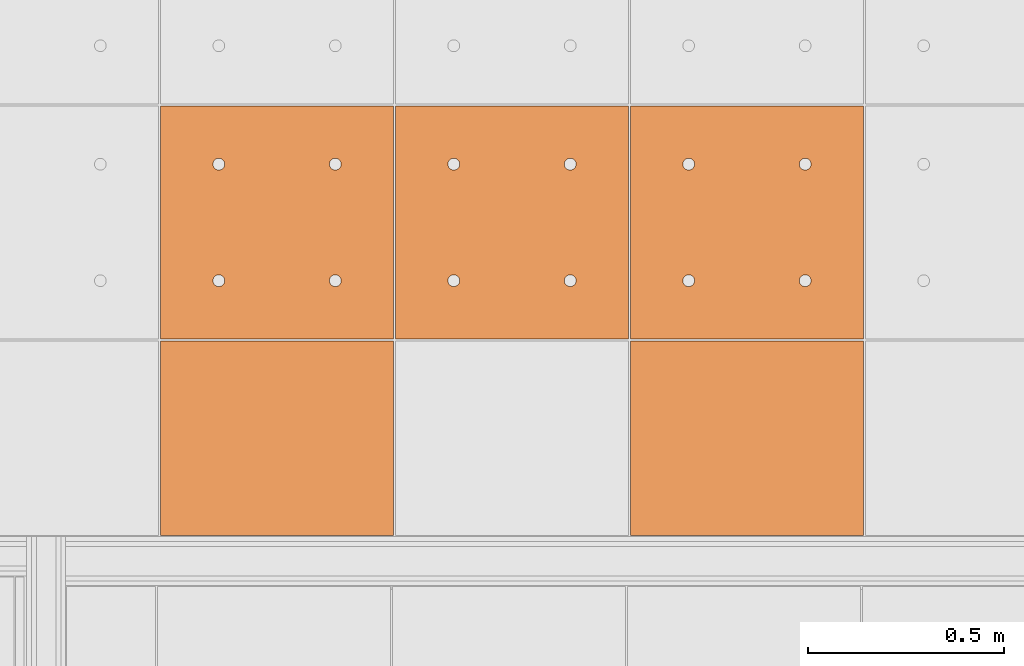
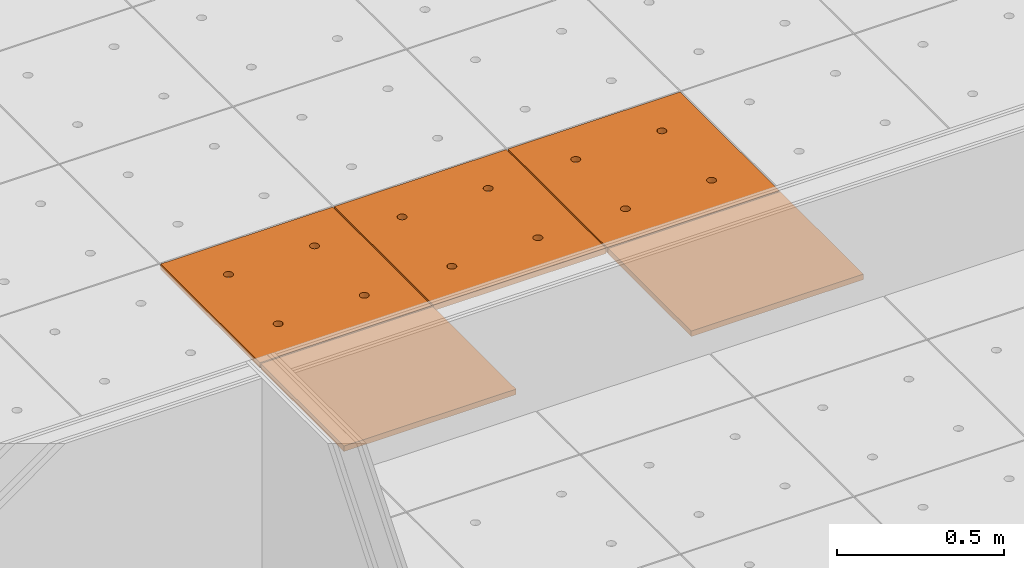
# One storey, part 278 of 338: 5 proxies, 1 element without a shape of its own.
"""IFC2X3 building model written with IfcOpenShell, lengths in millimetres."""

from ifc_helpers import new_model, entity, si_unit, converted_unit, derived_unit, money_unit, direction, frame, origin_with_axes, place, context, subcontext, project, spatial, faceted_brep, source, transform, mapped, material, type_object, type_shapes, element, aggregate, save


model = new_model("IFC2X3")

# Units and contexts
model_context = context("Model", 3, precision=0.01, world=origin_with_axes(), true_north=direction((0.0, 1.0)))
plan_context = context("Plan", 3, precision=0.01, world=origin_with_axes(), true_north=direction((0.0, 1.0)))
body_context = subcontext(model_context, "Body", "Model", "MODEL_VIEW")
ifc_project = project(units=[si_unit("LENGTHUNIT", "METRE", prefix="MILLI"), si_unit("AREAUNIT", "SQUARE_METRE"), si_unit("VOLUMEUNIT", "CUBIC_METRE"), converted_unit("PLANEANGLEUNIT", "DEGREE", entity("IfcPlaneAngleMeasure", 0.0174532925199), si_unit("PLANEANGLEUNIT", "RADIAN"), dimensions=[0, 0, 0, 0, 0, 0, 0]), money_unit("EUR"), converted_unit("TIMEUNIT", "Year", entity("IfcTimeMeasure", 31556926.0), si_unit("TIMEUNIT", "SECOND"), dimensions=[0, 0, 1, 0, 0, 0, 0]), si_unit("MASSUNIT", "GRAM", prefix="KILO"), si_unit("THERMODYNAMICTEMPERATUREUNIT", "DEGREE_CELSIUS"), si_unit("LUMINOUSINTENSITYUNIT", "LUMEN"), si_unit("ENERGYUNIT", "JOULE", prefix="MEGA"), derived_unit("THERMALCONDUCTANCEUNIT", [(si_unit("POWERUNIT", "WATT"), 1), (si_unit("LENGTHUNIT", "METRE"), -1), (si_unit("THERMODYNAMICTEMPERATUREUNIT", "KELVIN"), -1)]), derived_unit("SPECIFICHEATCAPACITYUNIT", [(si_unit("ENERGYUNIT", "JOULE"), 1), (si_unit("MASSUNIT", "GRAM", prefix="KILO"), -1), (si_unit("THERMODYNAMICTEMPERATUREUNIT", "KELVIN"), -1)]), derived_unit("MASSDENSITYUNIT", [(si_unit("MASSUNIT", "GRAM", prefix="KILO"), 1), (si_unit("VOLUMEUNIT", "CUBIC_METRE"), -1)])], contexts=[model_context, plan_context])

# Site, building, storey
site_placement = place(None, origin_with_axes())
site = spatial("IfcSite", under=ifc_project, at=site_placement, Name="Fortuinstraat Woensdrecht", CompositionType="ELEMENT")
building_placement = place(site_placement, origin_with_axes())
building = spatial("IfcBuilding", under=site, at=building_placement, Name="IKC Fortuna", CompositionType="ELEMENT")
storey_placement = place(building_placement, origin_with_axes())
storey = spatial("IfcBuildingStorey", under=building, at=storey_placement, Name="00 begane grond", CompositionType="ELEMENT", Elevation=0.0)

# Covering, proxies
covering_type = type_object("IfcCoveringType", Name="Curtain Wall Type", PredefinedType="CEILING")
covering_placement = place(storey_placement, frame((15059.4416165, 34009.703821, 3210.0), z_axis=(0.0, 0.0, 1.0), x_axis=(1.0, 0.0, 0.0)))
covering = element("IfcCovering", 1, at=covering_placement, inside=storey, type_object=covering_type, Name="45_Plafondafwerking_P01", PredefinedType="CEILING")
ifc_material = material(Name="Gipsplaat")
building_element_proxy_type_1 = type_object("IfcBuildingElementProxyType", Name="Distinct Panel 600 x 600 x 20", PredefinedType="NOTDEFINED")
shared_shape_1 = source(origin_with_axes(), body_context, "Body", "Brep", [
    faceted_brep([(2.49999999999, 2.49999999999, -10.0), (300.0, 2.49999999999, -10.0), (300.0, 2.49999999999, 10.0), (2.49999999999, 2.49999999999, 10.0), (2.49999999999, 300.0, -10.0), (2.49999999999, 597.5, -10.0), (300.0, 597.5, -10.0), (597.5, 597.5, -10.0), (597.5, 300.0, -10.0), (597.5, 2.49999999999, -10.0), (166.25, 450.06232995, -10.0), (165.79423259, 452.64711538, -10.0), (164.896546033, 455.11348892, -10.0), (163.58421608, 457.38651108, -10.0), (161.897117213, 459.39711721, -10.0), (159.886511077, 461.08421608, -10.0), (157.613488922, 462.39654603, -10.0), (155.147115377, 463.29423259, -10.0), (152.562329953, 463.75, -10.0), (149.937670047, 463.75, -10.0), (147.352884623, 463.29423259, -10.0), (144.886511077, 462.39654603, -10.0), (142.613488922, 461.08421608, -10.0), (140.602882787, 459.39711721, -10.0), (138.91578392, 457.38651108, -10.0), (137.603453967, 455.11348892, -10.0), (136.705767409, 452.64711538, -10.0), (136.25, 450.06232995, -10.0), (136.25, 448.75, -10.0), (136.25, 447.43767005, -10.0), (136.705767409, 444.85288462, -10.0), (137.603453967, 442.38651108, -10.0), (138.91578392, 440.11348892, -10.0), (140.602882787, 438.10288279, -10.0), (142.613488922, 436.41578392, -10.0), (144.886511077, 435.10345397, -10.0), (147.352884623, 434.20576741, -10.0), (149.937670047, 433.75, -10.0), (152.562329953, 433.75, -10.0), (155.147115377, 434.20576741, -10.0), (157.613488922, 435.10345397, -10.0), (159.886511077, 436.41578392, -10.0), (161.897117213, 438.10288279, -10.0), (163.58421608, 440.11348892, -10.0), (164.896546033, 442.38651108, -10.0), (165.79423259, 444.85288462, -10.0), (166.25, 447.43767005, -10.0), (463.75, 450.06232995, -10.0), (463.29423259, 452.64711538, -10.0), (462.396546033, 455.11348892, -10.0), (461.08421608, 457.38651108, -10.0), (459.397117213, 459.39711721, -10.0), (457.386511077, 461.08421608, -10.0), (455.113488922, 462.39654603, -10.0), (452.647115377, 463.29423259, -10.0), (450.062329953, 463.75, -10.0), (447.437670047, 463.75, -10.0), (444.852884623, 463.29423259, -10.0), (442.386511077, 462.39654603, -10.0), (440.113488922, 461.08421608, -10.0), (438.102882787, 459.39711721, -10.0), (436.41578392, 457.38651108, -10.0), (435.103453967, 455.11348892, -10.0), (434.205767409, 452.64711538, -10.0), (433.75, 450.06232995, -10.0), (433.75, 448.75, -10.0), (433.75, 447.43767005, -10.0), (434.205767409, 444.85288462, -10.0), (435.103453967, 442.38651108, -10.0), (436.41578392, 440.11348892, -10.0), (438.102882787, 438.10288279, -10.0), (440.113488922, 436.41578392, -10.0), (442.386511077, 435.10345397, -10.0), (444.852884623, 434.20576741, -10.0), (447.437670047, 433.75, -10.0), (450.062329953, 433.75, -10.0), (452.647115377, 434.20576741, -10.0), (455.113488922, 435.10345397, -10.0), (457.386511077, 436.41578392, -10.0), (459.397117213, 438.10288279, -10.0), (461.08421608, 440.11348892, -10.0), (462.396546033, 442.38651108, -10.0), (463.29423259, 444.85288462, -10.0), (463.75, 447.43767005, -10.0), (463.75, 152.56232995, -10.0), (463.29423259, 155.14711538, -10.0), (462.396546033, 157.61348892, -10.0), (461.08421608, 159.88651108, -10.0), (459.397117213, 161.89711721, -10.0), (457.386511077, 163.58421608, -10.0), (455.113488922, 164.89654603, -10.0), (452.647115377, 165.79423259, -10.0), (450.062329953, 166.25, -10.0), (447.437670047, 166.25, -10.0), (444.852884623, 165.79423259, -10.0), (442.386511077, 164.89654603, -10.0), (440.113488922, 163.58421608, -10.0), (438.102882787, 161.89711721, -10.0), (436.41578392, 159.88651108, -10.0), (435.103453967, 157.61348892, -10.0), (434.205767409, 155.14711538, -10.0), (433.75, 152.56232995, -10.0), (433.75, 151.25, -10.0), (433.75, 149.93767005, -10.0), (434.205767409, 147.35288462, -10.0), (435.103453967, 144.88651108, -10.0), (436.41578392, 142.61348892, -10.0), (438.102882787, 140.60288279, -10.0), (440.113488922, 138.91578392, -10.0), (442.386511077, 137.60345397, -10.0), (444.852884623, 136.70576741, -10.0), (447.437670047, 136.25, -10.0), (450.062329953, 136.25, -10.0), (452.647115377, 136.70576741, -10.0), (455.113488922, 137.60345397, -10.0), (457.386511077, 138.91578392, -10.0), (459.397117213, 140.60288279, -10.0), (461.08421608, 142.61348892, -10.0), (462.396546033, 144.88651108, -10.0), (463.29423259, 147.35288462, -10.0), (463.75, 149.93767005, -10.0), (166.25, 152.56232995, -10.0), (165.79423259, 155.14711538, -10.0), (164.896546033, 157.61348892, -10.0), (163.58421608, 159.88651108, -10.0), (161.897117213, 161.89711721, -10.0), (159.886511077, 163.58421608, -10.0), (157.613488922, 164.89654603, -10.0), (155.147115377, 165.79423259, -10.0), (152.562329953, 166.25, -10.0), (149.937670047, 166.25, -10.0), (147.352884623, 165.79423259, -10.0), (144.886511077, 164.89654603, -10.0), (142.613488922, 163.58421608, -10.0), (140.602882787, 161.89711721, -10.0), (138.91578392, 159.88651108, -10.0), (137.603453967, 157.61348892, -10.0), (136.705767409, 155.14711538, -10.0), (136.25, 152.56232995, -10.0), (136.25, 151.25, -10.0), (136.25, 149.93767005, -10.0), (136.705767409, 147.35288462, -10.0), (137.603453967, 144.88651108, -10.0), (138.91578392, 142.61348892, -10.0), (140.602882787, 140.60288279, -10.0), (142.613488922, 138.91578392, -10.0), (144.886511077, 137.60345397, -10.0), (147.352884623, 136.70576741, -10.0), (149.937670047, 136.25, -10.0), (152.562329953, 136.25, -10.0), (155.147115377, 136.70576741, -10.0), (157.613488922, 137.60345397, -10.0), (159.886511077, 138.91578392, -10.0), (161.897117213, 140.60288279, -10.0), (163.58421608, 142.61348892, -10.0), (164.896546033, 144.88651108, -10.0), (165.79423259, 147.35288462, -10.0), (166.25, 149.93767005, -10.0), (597.5, 2.49999999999, 10.0), (597.5, 300.0, 10.0), (597.5, 597.5, 10.0), (300.0, 597.5, 10.0), (2.49999999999, 597.5, 10.0), (2.49999999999, 300.0, 10.0), (166.25, 450.06232995, 10.0), (166.25, 447.43767005, 10.0), (165.79423259, 444.85288462, 10.0), (164.896546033, 442.38651108, 10.0), (163.58421608, 440.11348892, 10.0), (161.897117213, 438.10288279, 10.0), (159.886511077, 436.41578392, 10.0), (157.613488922, 435.10345397, 10.0), (155.147115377, 434.20576741, 10.0), (152.562329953, 433.75, 10.0), (149.937670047, 433.75, 10.0), (147.352884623, 434.20576741, 10.0), (144.886511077, 435.10345397, 10.0), (142.613488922, 436.41578392, 10.0), (140.602882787, 438.10288279, 10.0), (138.91578392, 440.11348892, 10.0), (137.603453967, 442.38651108, 10.0), (136.705767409, 444.85288462, 10.0), (136.25, 447.43767005, 10.0), (136.25, 448.75, 10.0), (136.25, 450.06232995, 10.0), (136.705767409, 452.64711538, 10.0), (137.603453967, 455.11348892, 10.0), (138.91578392, 457.38651108, 10.0), (140.602882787, 459.39711721, 10.0), (142.613488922, 461.08421608, 10.0), (144.886511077, 462.39654603, 10.0), (147.352884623, 463.29423259, 10.0), (149.937670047, 463.75, 10.0), (152.562329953, 463.75, 10.0), (155.147115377, 463.29423259, 10.0), (157.613488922, 462.39654603, 10.0), (159.886511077, 461.08421608, 10.0), (161.897117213, 459.39711721, 10.0), (163.58421608, 457.38651108, 10.0), (164.896546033, 455.11348892, 10.0), (165.79423259, 452.64711538, 10.0), (463.75, 450.06232995, 10.0), (463.75, 447.43767005, 10.0), (463.29423259, 444.85288462, 10.0), (462.396546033, 442.38651108, 10.0), (461.08421608, 440.11348892, 10.0), (459.397117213, 438.10288279, 10.0), (457.386511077, 436.41578392, 10.0), (455.113488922, 435.10345397, 10.0), (452.647115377, 434.20576741, 10.0), (450.062329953, 433.75, 10.0), (447.437670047, 433.75, 10.0), (444.852884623, 434.20576741, 10.0), (442.386511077, 435.10345397, 10.0), (440.113488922, 436.41578392, 10.0), (438.102882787, 438.10288279, 10.0), (436.41578392, 440.11348892, 10.0), (435.103453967, 442.38651108, 10.0), (434.205767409, 444.85288462, 10.0), (433.75, 447.43767005, 10.0), (433.75, 448.75, 10.0), (433.75, 450.06232995, 10.0), (434.205767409, 452.64711538, 10.0), (435.103453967, 455.11348892, 10.0), (436.41578392, 457.38651108, 10.0), (438.102882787, 459.39711721, 10.0), (440.113488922, 461.08421608, 10.0), (442.386511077, 462.39654603, 10.0), (444.852884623, 463.29423259, 10.0), (447.437670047, 463.75, 10.0), (450.062329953, 463.75, 10.0), (452.647115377, 463.29423259, 10.0), (455.113488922, 462.39654603, 10.0), (457.386511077, 461.08421608, 10.0), (459.397117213, 459.39711721, 10.0), (461.08421608, 457.38651108, 10.0), (462.396546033, 455.11348892, 10.0), (463.29423259, 452.64711538, 10.0), (463.75, 152.56232995, 10.0), (463.75, 149.93767005, 10.0), (463.29423259, 147.35288462, 10.0), (462.396546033, 144.88651108, 10.0), (461.08421608, 142.61348892, 10.0), (459.397117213, 140.60288279, 10.0), (457.386511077, 138.91578392, 10.0), (455.113488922, 137.60345397, 10.0), (452.647115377, 136.70576741, 10.0), (450.062329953, 136.25, 10.0), (447.437670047, 136.25, 10.0), (444.852884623, 136.70576741, 10.0), (442.386511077, 137.60345397, 10.0), (440.113488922, 138.91578392, 10.0), (438.102882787, 140.60288279, 10.0), (436.41578392, 142.61348892, 10.0), (435.103453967, 144.88651108, 10.0), (434.205767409, 147.35288462, 10.0), (433.75, 149.93767005, 10.0), (433.75, 151.25, 10.0), (433.75, 152.56232995, 10.0), (434.205767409, 155.14711538, 10.0), (435.103453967, 157.61348892, 10.0), (436.41578392, 159.88651108, 10.0), (438.102882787, 161.89711721, 10.0), (440.113488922, 163.58421608, 10.0), (442.386511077, 164.89654603, 10.0), (444.852884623, 165.79423259, 10.0), (447.437670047, 166.25, 10.0), (450.062329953, 166.25, 10.0), (452.647115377, 165.79423259, 10.0), (455.113488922, 164.89654603, 10.0), (457.386511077, 163.58421608, 10.0), (459.397117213, 161.89711721, 10.0), (461.08421608, 159.88651108, 10.0), (462.396546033, 157.61348892, 10.0), (463.29423259, 155.14711538, 10.0), (166.25, 152.56232995, 10.0), (166.25, 149.93767005, 10.0), (165.79423259, 147.35288462, 10.0), (164.896546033, 144.88651108, 10.0), (163.58421608, 142.61348892, 10.0), (161.897117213, 140.60288279, 10.0), (159.886511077, 138.91578392, 10.0), (157.613488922, 137.60345397, 10.0), (155.147115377, 136.70576741, 10.0), (152.562329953, 136.25, 10.0), (149.937670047, 136.25, 10.0), (147.352884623, 136.70576741, 10.0), (144.886511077, 137.60345397, 10.0), (142.613488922, 138.91578392, 10.0), (140.602882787, 140.60288279, 10.0), (138.91578392, 142.61348892, 10.0), (137.603453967, 144.88651108, 10.0), (136.705767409, 147.35288462, 10.0), (136.25, 149.93767005, 10.0), (136.25, 151.25, 10.0), (136.25, 152.56232995, 10.0), (136.705767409, 155.14711538, 10.0), (137.603453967, 157.61348892, 10.0), (138.91578392, 159.88651108, 10.0), (140.602882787, 161.89711721, 10.0), (142.613488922, 163.58421608, 10.0), (144.886511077, 164.89654603, 10.0), (147.352884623, 165.79423259, 10.0), (149.937670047, 166.25, 10.0), (152.562329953, 166.25, 10.0), (155.147115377, 165.79423259, 10.0), (157.613488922, 164.89654603, 10.0), (159.886511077, 163.58421608, 10.0), (161.897117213, 161.89711721, 10.0), (163.58421608, 159.88651108, 10.0), (164.896546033, 157.61348892, 10.0), (165.79423259, 155.14711538, 10.0)], [[[0, 1, 2, 3]], [[0, 4, 5, 6, 7, 8, 9, 1], [10, 11, 12, 13, 14, 15, 16, 17, 18, 19, 20, 21, 22, 23, 24, 25, 26, 27, 28, 29, 30, 31, 32, 33, 34, 35, 36, 37, 38, 39, 40, 41, 42, 43, 44, 45, 46], [47, 48, 49, 50, 51, 52, 53, 54, 55, 56, 57, 58, 59, 60, 61, 62, 63, 64, 65, 66, 67, 68, 69, 70, 71, 72, 73, 74, 75, 76, 77, 78, 79, 80, 81, 82, 83], [84, 85, 86, 87, 88, 89, 90, 91, 92, 93, 94, 95, 96, 97, 98, 99, 100, 101, 102, 103, 104, 105, 106, 107, 108, 109, 110, 111, 112, 113, 114, 115, 116, 117, 118, 119, 120], [121, 122, 123, 124, 125, 126, 127, 128, 129, 130, 131, 132, 133, 134, 135, 136, 137, 138, 139, 140, 141, 142, 143, 144, 145, 146, 147, 148, 149, 150, 151, 152, 153, 154, 155, 156, 157]], [[1, 9, 158, 2]], [[3, 2, 158, 159, 160, 161, 162, 163], [164, 165, 166, 167, 168, 169, 170, 171, 172, 173, 174, 175, 176, 177, 178, 179, 180, 181, 182, 183, 184, 185, 186, 187, 188, 189, 190, 191, 192, 193, 194, 195, 196, 197, 198, 199, 200], [201, 202, 203, 204, 205, 206, 207, 208, 209, 210, 211, 212, 213, 214, 215, 216, 217, 218, 219, 220, 221, 222, 223, 224, 225, 226, 227, 228, 229, 230, 231, 232, 233, 234, 235, 236, 237], [238, 239, 240, 241, 242, 243, 244, 245, 246, 247, 248, 249, 250, 251, 252, 253, 254, 255, 256, 257, 258, 259, 260, 261, 262, 263, 264, 265, 266, 267, 268, 269, 270, 271, 272, 273, 274], [275, 276, 277, 278, 279, 280, 281, 282, 283, 284, 285, 286, 287, 288, 289, 290, 291, 292, 293, 294, 295, 296, 297, 298, 299, 300, 301, 302, 303, 304, 305, 306, 307, 308, 309, 310, 311]], [[4, 0, 3, 163]], [[5, 4, 163, 162]], [[6, 5, 162, 161]], [[7, 6, 161, 160]], [[8, 7, 160, 159]], [[9, 8, 159, 158]], [[11, 10, 164, 200]], [[12, 11, 200, 199]], [[13, 12, 199, 198]], [[14, 13, 198, 197]], [[15, 14, 197, 196]], [[16, 15, 196, 195]], [[17, 16, 195, 194]], [[18, 17, 194, 193]], [[19, 18, 193, 192]], [[20, 19, 192, 191]], [[21, 20, 191, 190]], [[22, 21, 190, 189]], [[23, 22, 189, 188]], [[24, 23, 188, 187]], [[25, 24, 187, 186]], [[26, 25, 186, 185]], [[27, 26, 185, 184]], [[28, 27, 184, 183]], [[29, 28, 183, 182]], [[30, 29, 182, 181]], [[31, 30, 181, 180]], [[32, 31, 180, 179]], [[33, 32, 179, 178]], [[34, 33, 178, 177]], [[35, 34, 177, 176]], [[36, 35, 176, 175]], [[37, 36, 175, 174]], [[38, 37, 174, 173]], [[39, 38, 173, 172]], [[40, 39, 172, 171]], [[41, 40, 171, 170]], [[42, 41, 170, 169]], [[43, 42, 169, 168]], [[44, 43, 168, 167]], [[45, 44, 167, 166]], [[46, 45, 166, 165]], [[10, 46, 165, 164]], [[48, 47, 201, 237]], [[49, 48, 237, 236]], [[50, 49, 236, 235]], [[51, 50, 235, 234]], [[52, 51, 234, 233]], [[53, 52, 233, 232]], [[54, 53, 232, 231]], [[55, 54, 231, 230]], [[56, 55, 230, 229]], [[57, 56, 229, 228]], [[58, 57, 228, 227]], [[59, 58, 227, 226]], [[60, 59, 226, 225]], [[61, 60, 225, 224]], [[62, 61, 224, 223]], [[63, 62, 223, 222]], [[64, 63, 222, 221]], [[65, 64, 221, 220]], [[66, 65, 220, 219]], [[67, 66, 219, 218]], [[68, 67, 218, 217]], [[69, 68, 217, 216]], [[70, 69, 216, 215]], [[71, 70, 215, 214]], [[72, 71, 214, 213]], [[73, 72, 213, 212]], [[74, 73, 212, 211]], [[75, 74, 211, 210]], [[76, 75, 210, 209]], [[77, 76, 209, 208]], [[78, 77, 208, 207]], [[79, 78, 207, 206]], [[80, 79, 206, 205]], [[81, 80, 205, 204]], [[82, 81, 204, 203]], [[83, 82, 203, 202]], [[47, 83, 202, 201]], [[85, 84, 238, 274]], [[86, 85, 274, 273]], [[87, 86, 273, 272]], [[88, 87, 272, 271]], [[89, 88, 271, 270]], [[90, 89, 270, 269]], [[91, 90, 269, 268]], [[92, 91, 268, 267]], [[93, 92, 267, 266]], [[94, 93, 266, 265]], [[95, 94, 265, 264]], [[96, 95, 264, 263]], [[97, 96, 263, 262]], [[98, 97, 262, 261]], [[99, 98, 261, 260]], [[100, 99, 260, 259]], [[101, 100, 259, 258]], [[102, 101, 258, 257]], [[103, 102, 257, 256]], [[104, 103, 256, 255]], [[105, 104, 255, 254]], [[106, 105, 254, 253]], [[107, 106, 253, 252]], [[108, 107, 252, 251]], [[109, 108, 251, 250]], [[110, 109, 250, 249]], [[111, 110, 249, 248]], [[112, 111, 248, 247]], [[113, 112, 247, 246]], [[114, 113, 246, 245]], [[115, 114, 245, 244]], [[116, 115, 244, 243]], [[117, 116, 243, 242]], [[118, 117, 242, 241]], [[119, 118, 241, 240]], [[120, 119, 240, 239]], [[84, 120, 239, 238]], [[122, 121, 275, 311]], [[123, 122, 311, 310]], [[124, 123, 310, 309]], [[125, 124, 309, 308]], [[126, 125, 308, 307]], [[127, 126, 307, 306]], [[128, 127, 306, 305]], [[129, 128, 305, 304]], [[130, 129, 304, 303]], [[131, 130, 303, 302]], [[132, 131, 302, 301]], [[133, 132, 301, 300]], [[134, 133, 300, 299]], [[135, 134, 299, 298]], [[136, 135, 298, 297]], [[137, 136, 297, 296]], [[138, 137, 296, 295]], [[139, 138, 295, 294]], [[140, 139, 294, 293]], [[141, 140, 293, 292]], [[142, 141, 292, 291]], [[143, 142, 291, 290]], [[144, 143, 290, 289]], [[145, 144, 289, 288]], [[146, 145, 288, 287]], [[147, 146, 287, 286]], [[148, 147, 286, 285]], [[149, 148, 285, 284]], [[150, 149, 284, 283]], [[151, 150, 283, 282]], [[152, 151, 282, 281]], [[153, 152, 281, 280]], [[154, 153, 280, 279]], [[155, 154, 279, 278]], [[156, 155, 278, 277]], [[157, 156, 277, 276]], [[121, 157, 276, 275]]]),
])
type_shapes(building_element_proxy_type_1, [shared_shape_1])
proxy_1_placement = place(covering_placement, frame((3600.0, -6600.0, 0.0), z_axis=(0.0, 0.0, 1.0), x_axis=(1.0, 0.0, 0.0)))
proxy_1 = element("IfcBuildingElementProxy", 2, at=proxy_1_placement, type_object=building_element_proxy_type_1, material=ifc_material, Name="__Panel-D", context=body_context, shape_type="MappedRepresentation", body=[
    mapped(shared_shape_1, transform((300.0, 300.0, 0.0), x_axis=(-1.0, 0.0, 0.0), y_axis=(0.0, -1.0, 0.0), z_axis=(0.0, 0.0, 1.0))),
])
proxy_2_placement = place(covering_placement, frame((2400.0, -6600.0, 0.0), z_axis=(0.0, 0.0, 1.0), x_axis=(1.0, 0.0, 0.0)))
proxy_2 = element("IfcBuildingElementProxy", 3, at=proxy_2_placement, type_object=building_element_proxy_type_1, material=ifc_material, Name="__Panel-D", context=body_context, shape_type="MappedRepresentation", body=[
    mapped(shared_shape_1, transform((300.0, 300.0, 0.0), x_axis=(-1.0, 0.0, 0.0), y_axis=(0.0, -1.0, 0.0), z_axis=(0.0, 0.0, 1.0))),
])
proxy_3_placement = place(covering_placement, frame((3000.0, -6600.0, 0.0), z_axis=(0.0, 0.0, 1.0), x_axis=(1.0, 0.0, 0.0)))
proxy_3 = element("IfcBuildingElementProxy", 4, at=proxy_3_placement, type_object=building_element_proxy_type_1, material=ifc_material, Name="__Panel-D", context=body_context, shape_type="MappedRepresentation", body=[
    mapped(shared_shape_1, transform((300.0, 300.0, 0.0), x_axis=(-1.0, 0.0, 0.0), y_axis=(0.0, -1.0, 0.0), z_axis=(0.0, 0.0, 1.0))),
])
building_element_proxy_type_2 = type_object("IfcBuildingElementProxyType", Name="Main Panel 600 x 503 x 20", PredefinedType="NOTDEFINED")
shared_shape_2 = source(origin_with_axes(), body_context, "Body", "Brep", [
    faceted_brep([(2.49999999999, 2.49999752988, -10.0), (597.5, 2.49999752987, -10.0), (597.5, 2.49999752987, 10.0), (2.49999999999, 2.49999752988, 10.0), (2.5, 500.092828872, -10.0), (597.5, 500.092828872, -10.0), (597.5, 500.092828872, 10.0), (2.5, 500.092828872, 10.0)], [[[0, 1, 2, 3]], [[0, 4, 5, 1]], [[1, 5, 6, 2]], [[3, 2, 6, 7]], [[4, 0, 3, 7]], [[5, 4, 7, 6]]]),
])
type_shapes(building_element_proxy_type_2, [shared_shape_2])
proxy_4_placement = place(covering_placement, frame((3600.0, -7151.29641444, 0.0), z_axis=(0.0, 0.0, 1.0), x_axis=(1.0, 0.0, 0.0)))
proxy_4 = element("IfcBuildingElementProxy", 5, at=proxy_4_placement, type_object=building_element_proxy_type_2, material=ifc_material, Name="__Panel-D", context=body_context, shape_type="MappedRepresentation", body=[
    mapped(shared_shape_2, transform((300.0, 251.296414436, 0.0), x_axis=(-1.0, 0.0, 0.0), y_axis=(0.0, -1.0, 0.0), z_axis=(0.0, 0.0, 1.0))),
])
proxy_5_placement = place(covering_placement, frame((2400.0, -7151.29641444, 0.0), z_axis=(0.0, 0.0, 1.0), x_axis=(1.0, 0.0, 0.0)))
proxy_5 = element("IfcBuildingElementProxy", 6, at=proxy_5_placement, type_object=building_element_proxy_type_2, material=ifc_material, Name="__Panel-D", context=body_context, shape_type="MappedRepresentation", body=[
    mapped(shared_shape_2, transform((300.0, 251.296414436, 0.0), x_axis=(-1.0, 0.0, 0.0), y_axis=(0.0, -1.0, 0.0), z_axis=(0.0, 0.0, 1.0))),
])
aggregate(covering, [proxy_1, proxy_2, proxy_4, proxy_3, proxy_5])

save(model, "model.ifc")
